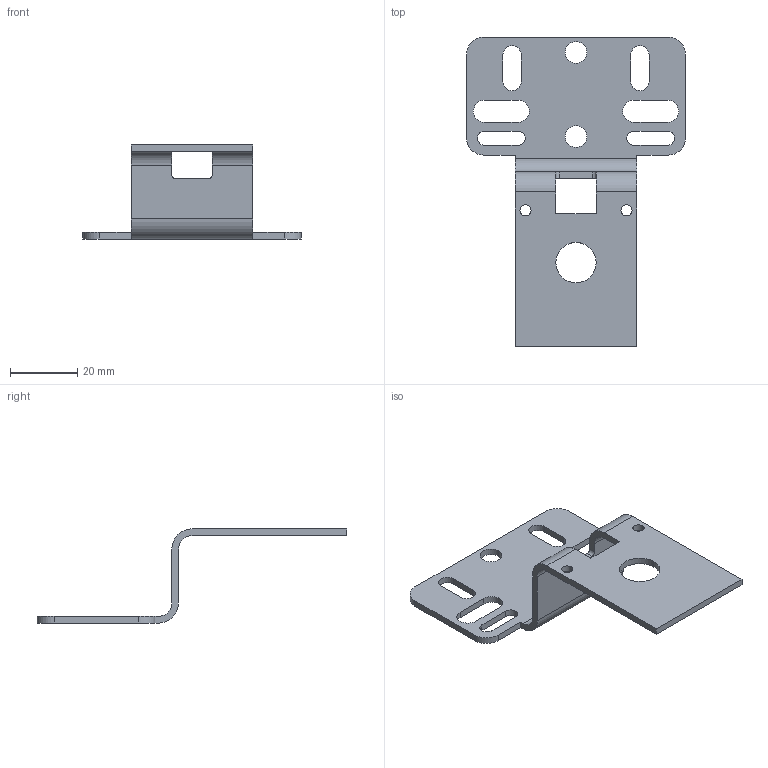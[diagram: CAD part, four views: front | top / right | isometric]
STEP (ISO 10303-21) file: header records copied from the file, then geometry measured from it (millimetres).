
FILE_DESCRIPTION((''),'2;1');
FILE_NAME('R412014755','2018-12-14T',('hug2hc'),(''),'CREO PARAMETRIC BY PTC INC, 2016260','CREO PARAMETRIC BY PTC INC, 2016260','');
FILE_SCHEMA(('CONFIG_CONTROL_DESIGN'));
Length unit declared in the file: millimetre
Products named in the file (1): R412014755
Bounding box: 65 x 92 x 28 mm (x, y, z)
Volume: 8452.6 mm3; surface area: 9896.1 mm2
Topology: 1 solids, 1 shells, 64 faces, 192 edges, 128 vertices
Faces by surface type: cylinder 34, plane 30
Entity records: 2285 total; most frequent: DIRECTION 388, CARTESIAN_POINT 384, ORIENTED_EDGE 384, EDGE_CURVE 192, AXIS2_PLACEMENT_3D 132, VERTEX_POINT 128, VECTOR 124, LINE 124
